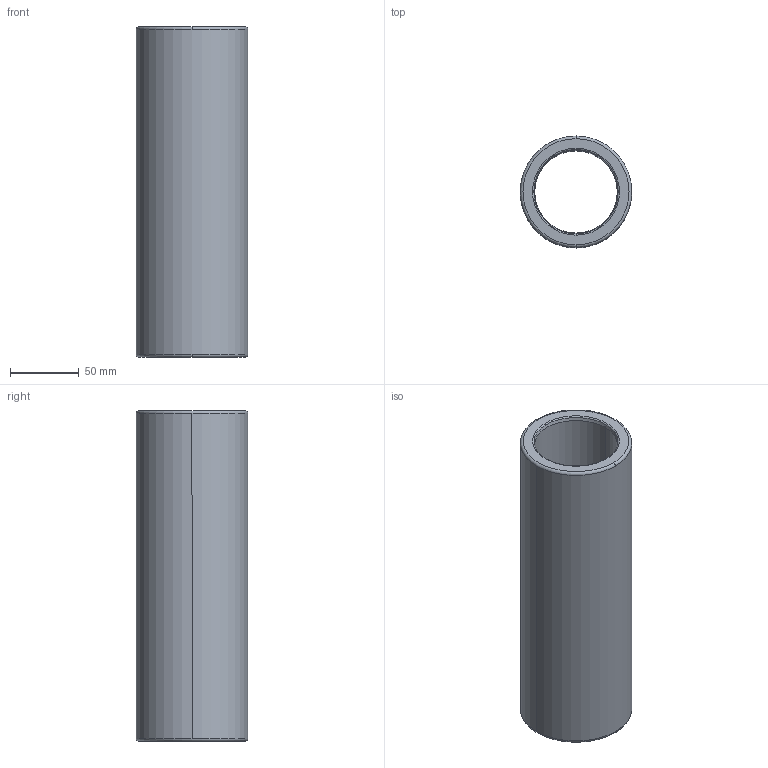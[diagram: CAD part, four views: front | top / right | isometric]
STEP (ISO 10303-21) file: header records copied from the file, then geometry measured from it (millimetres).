
FILE_DESCRIPTION((''),'2;1');
FILE_NAME('B30_048_240.stp','2009-01-12T10:55:36',(''),(''),'Mechanical Desktop 2009','Mechanical Desktop 2009',', , ');
FILE_SCHEMA(('CONFIG_CONTROL_DESIGN'));
Length unit declared in the file: millimetre
Products named in the file (2): Product; blmdl1
Assembly tree (1 placements, depth 2):
  Product
    blmdl1
Bounding box: 80.98 x 80.98 x 240 mm (x, y, z)
Volume: 557558.1 mm3; surface area: 110145.7 mm2
Topology: 1 solids, 1 shells, 18 faces, 48 edges, 32 vertices
Faces by surface type: torus 8, cylinder 4, cone 4, plane 2
Entity records: 705 total; most frequent: DIRECTION 128, CARTESIAN_POINT 100, ORIENTED_EDGE 96, AXIS2_PLACEMENT_3D 60, EDGE_CURVE 48, CIRCLE 40, VERTEX_POINT 32, EDGE_LOOP 20
